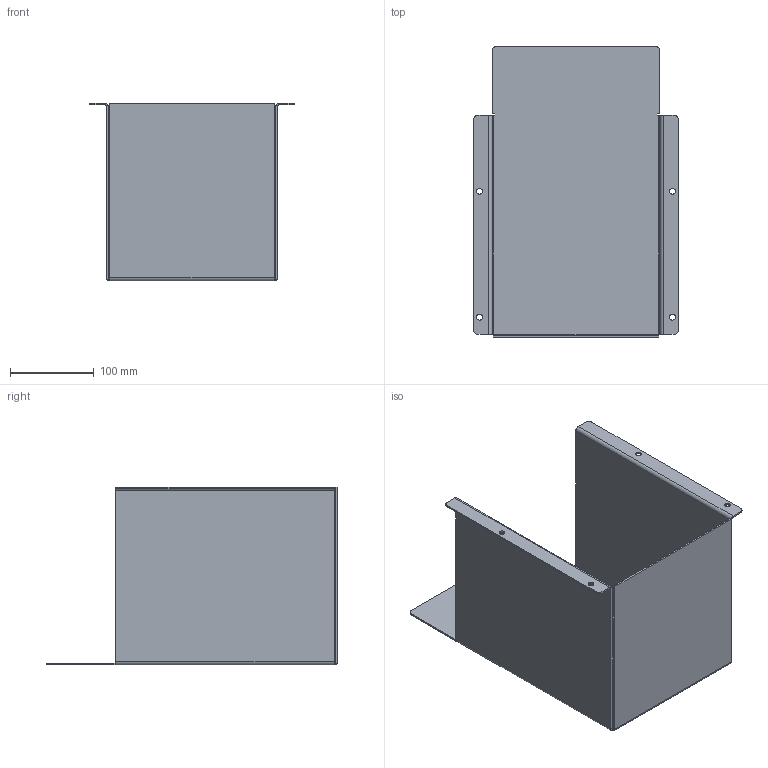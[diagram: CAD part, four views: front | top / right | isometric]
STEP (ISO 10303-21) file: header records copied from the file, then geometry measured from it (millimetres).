
FILE_DESCRIPTION(/* description */ (''),/* implementation_level */ '2;1');
FILE_NAME(/* name */ 'Flex Bin.step',/* time_stamp */ '2026-05-11T08:27:06-07:00',/* author */ (''),/* organization */ (''),/* preprocessor_version */ 'ST-DEVELOPER v20.1',/* originating_system */ 'Autodesk Translation Framework v15.8.0.0',/* authorisation */ '');
FILE_SCHEMA (('AUTOMOTIVE_DESIGN { 1 0 10303 214 3 1 1 }'));
Length unit declared in the file: millimetre
Products named in the file (1): Flex Bin
Bounding box: 244 x 347 x 212 mm (x, y, z)
Volume: 460266.2 mm3; surface area: 465308 mm2
Topology: 1 solids, 1 shells, 68 faces, 158 edges, 92 vertices
Faces by surface type: plane 48, cylinder 20
Full cylindrical faces by diameter (mm): 7 x4
Entity records: 1931 total; most frequent: DIRECTION 336, CARTESIAN_POINT 319, ORIENTED_EDGE 316, EDGE_CURVE 158, LINE 118, VECTOR 118, AXIS2_PLACEMENT_3D 109, VERTEX_POINT 92
